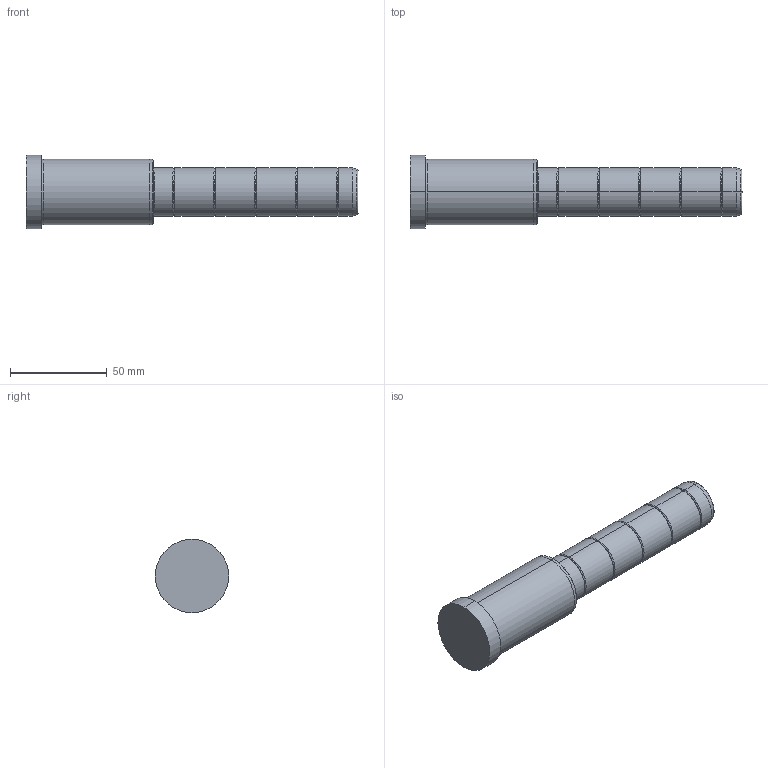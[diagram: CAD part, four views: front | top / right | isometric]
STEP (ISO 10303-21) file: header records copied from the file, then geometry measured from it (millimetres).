
FILE_DESCRIPTION( ( 'STEP AP203' ), '1' );
FILE_NAME( 'C:/Projects/D02 - 25x66x106.step', '2002-12-31T22:23:15', ( ' ' ), ( ' ' ), 'XStep 1.0', ' ', ' ' );
FILE_SCHEMA( ( 'CONFIG_CONTROL_DESIGN' ) );
Length unit declared in the file: metre
Products named in the file (1): 1
Bounding box: 172 x 38 x 38 mm (x, y, z)
Volume: 113562.2 mm3; surface area: 17831.9 mm2
Topology: 1 solids, 1 shells, 54 faces, 106 edges, 58 vertices
Faces by surface type: bspline 30, revolution 24
Entity records: 1721 total; most frequent: CARTESIAN_POINT 717, ORIENTED_EDGE 212, DIRECTION 166, EDGE_CURVE 106, AXIS2_PLACEMENT_3D 59, EDGE_LOOP 58, VERTEX_POINT 58, CIRCLE 58
